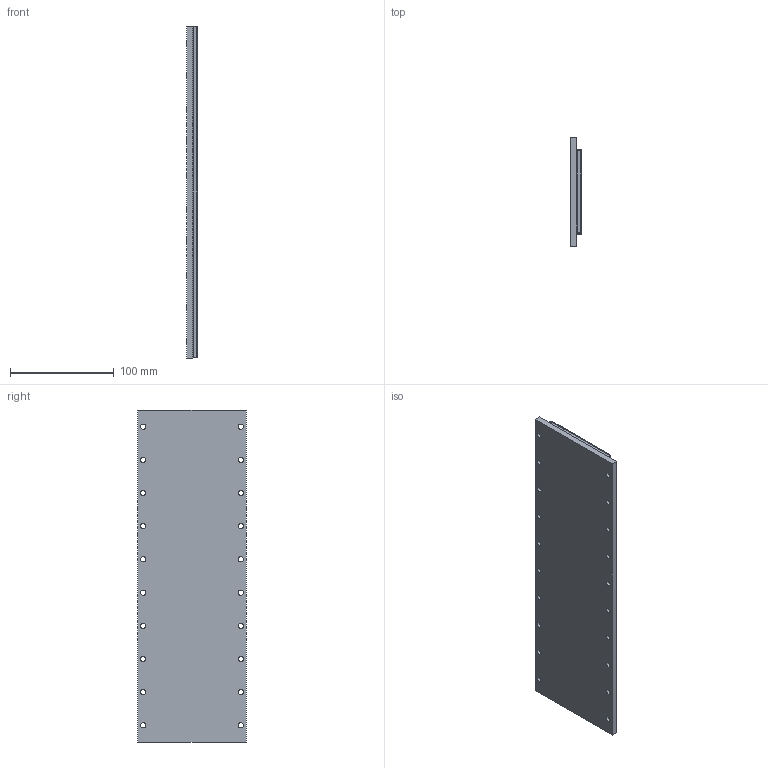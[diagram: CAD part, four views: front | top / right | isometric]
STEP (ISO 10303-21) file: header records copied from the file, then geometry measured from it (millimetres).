
FILE_DESCRIPTION (( 'STEP AP214' ), '1' );
FILE_NAME ('PIXM080-TL320-C.STEP', '2019-03-08T10:36:28', ( '' ), ( '' ), 'SwSTEP 2.0', 'SolidWorks 2016', '' );
FILE_SCHEMA (( 'AUTOMOTIVE_DESIGN' ));
Length unit declared in the file: millimetre
Products named in the file (4): 001SM080LXXX02_TL320; 001SM080000001-CUSTOMER_TL320; 001SM080LXXX01_TL320; PIXM080-TL320-C
Assembly tree (3 placements, depth 2):
  PIXM080-TL320-C
    001SM080LXXX01_TL320
    001SM080000001-CUSTOMER_TL320
    001SM080LXXX02_TL320
Bounding box: 10.3 x 105 x 320 mm (x, y, z)
Volume: 306924.1 mm3; surface area: 183899 mm2
Topology: 3 solids, 3 shells, 165 faces, 382 edges, 236 vertices
Faces by surface type: cylinder 96, plane 61, sphere 8
Entity records: 4894 total; most frequent: DIRECTION 908, CARTESIAN_POINT 781, ORIENTED_EDGE 748, EDGE_CURVE 374, AXIS2_PLACEMENT_3D 363, VERTEX_POINT 236, EDGE_LOOP 226, CIRCLE 192
